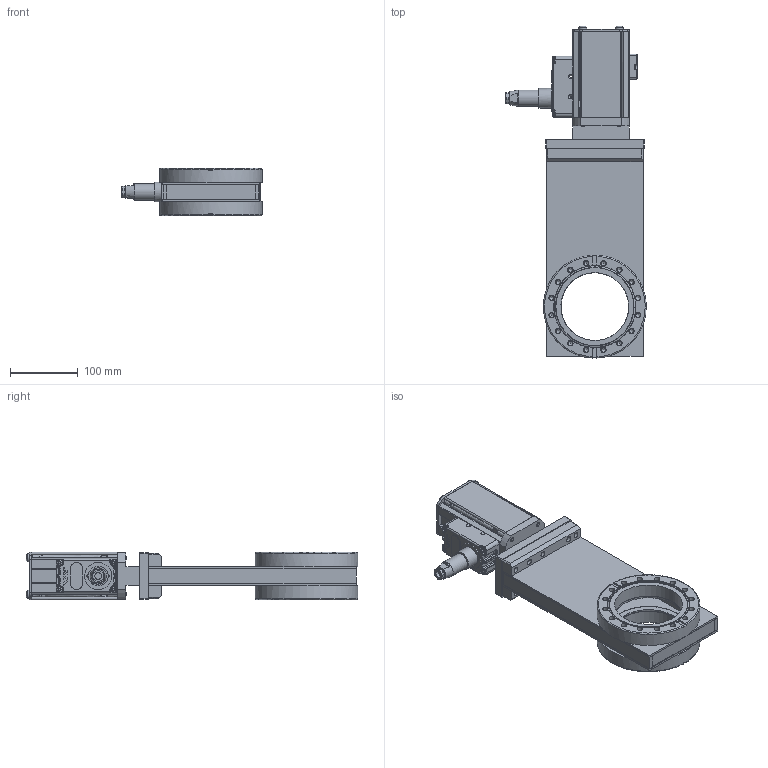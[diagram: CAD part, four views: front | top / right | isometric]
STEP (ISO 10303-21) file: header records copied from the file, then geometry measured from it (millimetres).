
FILE_DESCRIPTION((''),'2;1');
FILE_NAME('O:\MT\MT\Systeme\Cad\Datenexporte\www_vat_ch\212272.stp','2005-08-04T15:08:39',('User'),('SDRC'),'I-DEAS Master Series 9','UNIX','Yes');
FILE_SCHEMA(('CONFIG_CONTROL_DESIGN'));
Length unit declared in the file: millimetre
Assembly tree (55 placements, depth 0):
Bounding box: 207.22 x 489.89 x 70 mm (x, y, z)
Volume: 1454720.6 mm3; surface area: 544515.3 mm2
Topology: 74 solids, 74 shells, 1539 faces, 3431 edges, 2178 vertices
Faces by surface type: bspline 1539
Entity records: 37531 total; most frequent: CARTESIAN_POINT 18765, ORIENTED_EDGE 4612, EDGE_CURVE 2306, VERTEX_POINT 1481, EDGE_LOOP 1265, FACE_OUTER_BOUND 1022, ADVANCED_FACE 1022, QUASI_UNIFORM_CURVE 750
